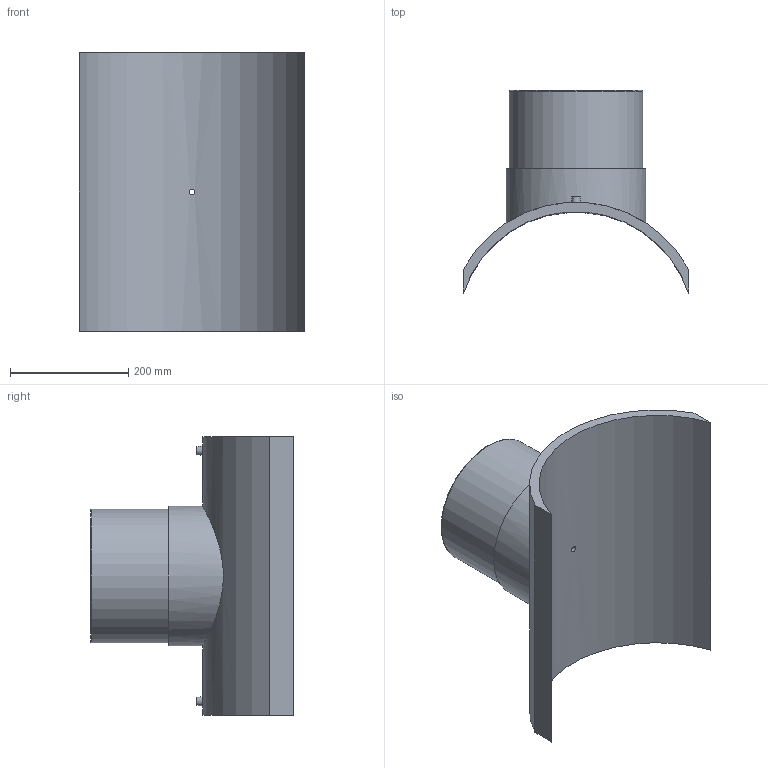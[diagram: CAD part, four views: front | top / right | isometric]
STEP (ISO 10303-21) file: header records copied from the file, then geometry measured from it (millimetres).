
FILE_DESCRIPTION(/* description */ ('PLASSON BRANCH SADDLE 400x225'),/* implementation_level */ '2;1');
FILE_NAME(/* name */ 'C:\Dropbox\KIMPROJECTS-Inventor 2019\99-16-3568-Processing\ElectroFusion Fittings\495803\stp\495803400225T.stp',/* time_stamp */ '2024-04-04T11:50:39+02:00',/* author */ ('KIM'),/* organization */ (''),/* preprocessor_version */ 'ST-DEVELOPER v17.2',/* originating_system */ 'Autodesk Inventor 2019',/* authorisation */ '');
FILE_SCHEMA (('AUTOMOTIVE_DESIGN { 1 0 10303 214 3 1 1 }'));
Length unit declared in the file: millimetre
Products named in the file (1): 495803400225T
Bounding box: 380 x 342.55 x 470 mm (x, y, z)
Volume: 6806395.8 mm3; surface area: 775430.6 mm2
Topology: 1 solids, 1 shells, 29 faces, 60 edges, 43 vertices
Faces by surface type: plane 13, cylinder 12, torus 2, cone 2
Full cylindrical faces by diameter (mm): 4 x2, 9.6 x1, 10 x2, 16 x1, 180 x1, 225 x1, 236.25 x1
Entity records: 1086 total; most frequent: CARTESIAN_POINT 400, DIRECTION 139, ORIENTED_EDGE 120, EDGE_CURVE 60, AXIS2_PLACEMENT_3D 60, VERTEX_POINT 43, EDGE_LOOP 41, CIRCLE 30
